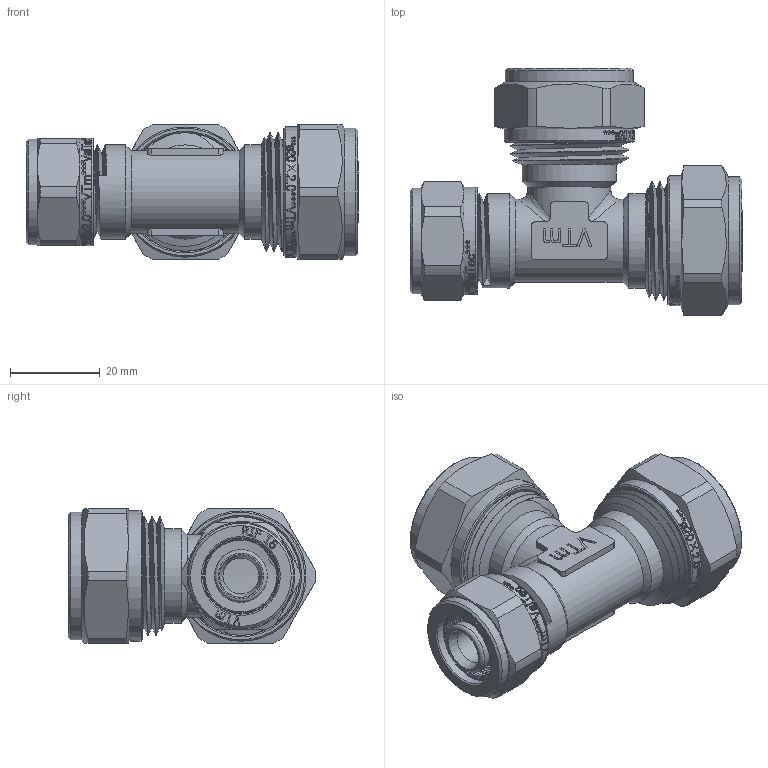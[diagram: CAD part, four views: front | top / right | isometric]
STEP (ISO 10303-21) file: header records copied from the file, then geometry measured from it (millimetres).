
FILE_DESCRIPTION(/* description */ (''),/* implementation_level */ '2;1');
FILE_NAME(/* name */ 'E:\Артём\00000\Работа удаленка\Обжимные фитинги\VTm.331.N.202016.stp',/* time_stamp */ '2020-06-30T12:59:17+03:00',/* author */ ('BeN_GaN'),/* organization */ (''),/* preprocessor_version */ 'ST-DEVELOPER v18',/* originating_system */ 'Autodesk Inventor 2020',/* authorisation */ '');
FILE_SCHEMA (('AUTOMOTIVE_DESIGN { 1 0 10303 214 3 1 1 }'));
Length unit declared in the file: millimetre
Products named in the file (1): VTm.331.N.202016
Bounding box: 74 x 55.21 x 30 mm (x, y, z)
Volume: 32636.2 mm3; surface area: 24371.5 mm2
Topology: 1 solids, 3 shells, 1992 faces, 5585 edges, 3759 vertices
Faces by surface type: bspline 1062, plane 567, cylinder 241, torus 69, cone 53
Full cylindrical faces by diameter (mm): 8 x1, 9.4 x2, 11.5 x2, 11.505 x1, 11.75 x4, 13.4 x4, 15.75 x8, 16 x4, 16.2 x1, 16.6 x5, 17 x1, 17.4 x3, 18.5 x2, 18.6 x4, 19.986 x8, 20.2 x2, 20.728 x10, 21 x5, 22.8 x6, 23.201 x2, 23.5 x1, 24 x1, 24.2 x4, 26.4 x3, 28.5 x2, 29 x2
Entity records: 86164 total; most frequent: CARTESIAN_POINT 41432, ORIENTED_EDGE 11178, DIRECTION 6074, EDGE_CURVE 5589, VERTEX_POINT 3763, LINE 2386, VECTOR 2386, B_SPLINE_CURVE_WITH_KNOTS 2242
